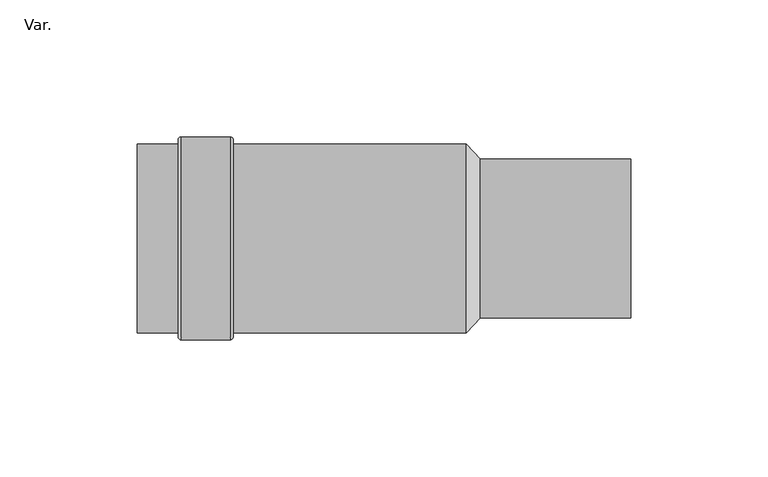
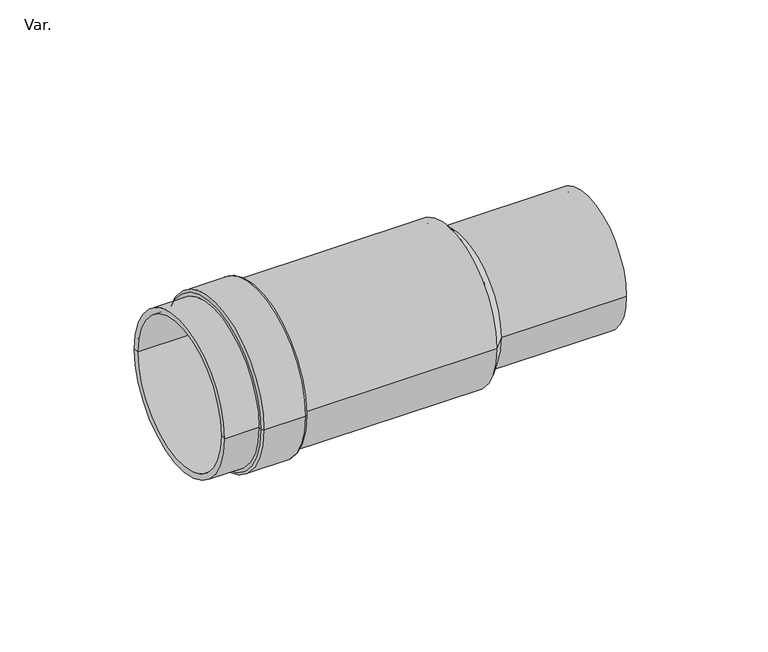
"""IFC4 building model written with IfcOpenShell, lengths in millimetres: pipe fitting geometry, PlastigamaWavin_Unionesdetubería_Biax y UZ_ZNoUsarAdaptadorEnsamblado : Var.."""

from ifc_helpers import new_model, si_unit, point, frame, origin, place, context, project, spatial, polyline, circle_curve, ellipse_curve, trimmed, source, transform, mapped, element, save
from ifc_brep_helpers import plane_surface, cylinder_surface, revolved_surface, advanced_brep


def var_d68ef85f(model_context):
    return source(origin(), model_context, "Body", "AdvancedBrep", [
        advanced_brep(
        [(-125.0, 34.5, 0.0), (-110.0, 34.5, 0.0), (-110.0, -34.5, 0.0), (-125.0, -34.5, 0.0), (-125.0, 32.0, 0.0), (-125.0, -32.0, 0.0), (-5.0, 32.0, 0.0), (-5.0, -32.0, 0.0), (-5.0, 26.5, 0.0), (-5.0, -26.5, 0.0), (55.0, 26.5, 0.0), (55.0, -26.5, 0.0), (55.0, 29.0, 0.0), (55.0, -29.0, 0.0), (0.0, 29.0, 0.0), (0.0, -29.0, 0.0), (-5.0, 34.5, 0.0), (-5.0, -34.5, 0.0), (-90.0, 34.5, 0.0), (-90.0, -34.5, 0.0), (-90.0, 36.0, 0.0), (-90.0, -36.0, 0.0), (-109.0, 37.0, 0.0), (-91.0, 37.0, 0.0), (-91.0, -37.0, 0.0), (-109.0, -37.0, 0.0), (-110.0, 36.0, 0.0), (-110.0, -36.0, 0.0)],
        [
            (0, 1),
            (1, 2, circle_curve(frame((-110.0, 0.0, 0.0), z_axis=(-1.0, 0.0, 0.0), x_axis=(0.0, -1.0, 0.0)), 34.5)),
            (2, 3),
            (3, 0, circle_curve(frame((-125.0, 0.0, 0.0), z_axis=(1.0, 0.0, 0.0), x_axis=(0.0, -1.0, 0.0)), 34.5)),
            (2, 1, circle_curve(frame((-110.0, 0.0, 0.0), z_axis=(-1.0, 0.0, 0.0), x_axis=(0.0, -1.0, 0.0)), 34.5)),
            (0, 3, circle_curve(frame((-125.0, 0.0, 0.0), z_axis=(1.0, 0.0, 0.0), x_axis=(0.0, -1.0, 0.0)), 34.5)),
            (4, 0),
            (3, 5),
            (5, 4, circle_curve(frame((-125.0, 0.0, 0.0), z_axis=(1.0, 0.0, 0.0), x_axis=(0.0, -1.0, 0.0)), 32.0)),
            (4, 5, circle_curve(frame((-125.0, 0.0, 0.0), z_axis=(1.0, 0.0, 0.0), x_axis=(0.0, -1.0, 0.0)), 32.0)),
            (6, 4),
            (5, 7),
            (7, 6, circle_curve(frame((-5.0, 0.0, 0.0), z_axis=(1.0, 0.0, 0.0), x_axis=(0.0, -1.0, 0.0)), 32.0)),
            (6, 7, circle_curve(frame((-5.0, 0.0, 0.0), z_axis=(1.0, 0.0, 0.0), x_axis=(0.0, -1.0, 0.0)), 32.0)),
            (8, 6),
            (7, 9),
            (9, 8, circle_curve(frame((-5.0, 0.0, 0.0), z_axis=(1.0, 0.0, 0.0), x_axis=(0.0, -1.0, 0.0)), 26.5)),
            (8, 9, circle_curve(frame((-5.0, 0.0, 0.0), z_axis=(1.0, 0.0, 0.0), x_axis=(0.0, -1.0, 0.0)), 26.5)),
            (10, 8),
            (9, 11),
            (11, 10, circle_curve(frame((55.0, 0.0, 0.0), z_axis=(1.0, 0.0, 0.0), x_axis=(0.0, -1.0, 0.0)), 26.5)),
            (10, 11, circle_curve(frame((55.0, 0.0, 0.0), z_axis=(1.0, 0.0, 0.0), x_axis=(0.0, -1.0, 0.0)), 26.5)),
            (12, 10),
            (11, 13),
            (13, 12, circle_curve(frame((55.0, 0.0, 0.0), z_axis=(1.0, 0.0, 0.0), x_axis=(0.0, -1.0, 0.0)), 29.0)),
            (12, 13, circle_curve(frame((55.0, 0.0, 0.0), z_axis=(1.0, 0.0, 0.0), x_axis=(0.0, -1.0, 0.0)), 29.0)),
            (14, 12),
            (13, 15),
            (15, 14, circle_curve(frame((0.0, 0.0, 0.0), z_axis=(1.0, 0.0, 0.0), x_axis=(0.0, -1.0, 0.0)), 29.0)),
            (14, 15, circle_curve(frame((0.0, 0.0, 0.0), z_axis=(1.0, 0.0, 0.0), x_axis=(0.0, -1.0, 0.0)), 29.0)),
            (16, 14),
            (15, 17),
            (17, 16, circle_curve(frame((-5.0, 0.0, 0.0), z_axis=(1.0, 0.0, 0.0), x_axis=(0.0, -1.0, 0.0)), 34.5)),
            (16, 17, circle_curve(frame((-5.0, 0.0, 0.0), z_axis=(1.0, 0.0, 0.0), x_axis=(0.0, -1.0, 0.0)), 34.5)),
            (18, 16),
            (17, 19),
            (19, 18, circle_curve(frame((-90.0, 0.0, 0.0), z_axis=(1.0, 0.0, 0.0), x_axis=(0.0, -1.0, 0.0)), 34.5)),
            (18, 19, circle_curve(frame((-90.0, 0.0, 0.0), z_axis=(1.0, 0.0, 0.0), x_axis=(0.0, -1.0, 0.0)), 34.5)),
            (20, 18),
            (19, 21),
            (21, 20, circle_curve(frame((-90.0, 0.0, 0.0), z_axis=(1.0, 0.0, 0.0), x_axis=(0.0, -1.0, 0.0)), 36.0)),
            (20, 21, circle_curve(frame((-90.0, 0.0, 0.0), z_axis=(1.0, 0.0, 0.0), x_axis=(0.0, -1.0, 0.0)), 36.0)),
            (22, 23),
            (23, 24, circle_curve(frame((-91.0, 0.0, 0.0), z_axis=(-1.0, 0.0, 0.0), x_axis=(0.0, -1.0, 0.0)), 37.0)),
            (24, 25),
            (25, 22, circle_curve(frame((-109.0, 0.0, 0.0), z_axis=(1.0, 0.0, 0.0), x_axis=(0.0, -1.0, 0.0)), 37.0)),
            (24, 23, circle_curve(frame((-91.0, 0.0, 0.0), z_axis=(-1.0, 0.0, 0.0), x_axis=(0.0, -1.0, 0.0)), 37.0)),
            (22, 25, circle_curve(frame((-109.0, 0.0, 0.0), z_axis=(1.0, 0.0, 0.0), x_axis=(0.0, -1.0, 0.0)), 37.0)),
            (1, 26),
            (26, 27, circle_curve(frame((-110.0, 0.0, 0.0), z_axis=(-1.0, 0.0, 0.0), x_axis=(0.0, -1.0, 0.0)), 36.0)),
            (27, 2),
            (27, 26, circle_curve(frame((-110.0, 0.0, 0.0), z_axis=(-1.0, 0.0, 0.0), x_axis=(0.0, -1.0, 0.0)), 36.0)),
            (23, 20, circle_curve(frame((-91.0, 36.0, 0.0), z_axis=(0.0, 0.0, -1.0), x_axis=(1.0, 0.0, 0.0)), 1.0)),
            (21, 24, circle_curve(frame((-91.0, -36.0, 0.0), z_axis=(0.0, 0.0, -1.0), x_axis=(1.0, 0.0, 0.0)), 1.0)),
            (26, 22, circle_curve(frame((-109.0, 36.0, 0.0), z_axis=(0.0, 0.0, -1.0), x_axis=(1.0, 0.0, 0.0)), 1.0)),
            (25, 27, circle_curve(frame((-109.0, -36.0, 0.0), z_axis=(0.0, 0.0, -1.0), x_axis=(1.0, 0.0, 0.0)), 1.0)),
        ],
        [
            cylinder_surface(frame((-125.0, 0.0, 0.0), z_axis=(-1.0, 0.0, 0.0), x_axis=(0.0, -1.0, 0.0)), 34.5),
            plane_surface(frame((-125.0, 0.0, 0.0), z_axis=(-1.0, 0.0, 0.0), x_axis=(0.0, -1.0, 0.0))),
            revolved_surface(polyline([(-125.0, -32.0, 0.0), (-5.0, -32.0, 0.0)]), (-125.0, 0.0, 0.0), (-1.0, 0.0, 0.0)),
            plane_surface(frame((-5.0, 0.0, 0.0), z_axis=(-1.0, 0.0, 0.0), x_axis=(0.0, -1.0, 0.0))),
            revolved_surface(polyline([(-5.0, -26.5, 0.0), (55.0, -26.5, 0.0)]), (-125.0, 0.0, 0.0), (-1.0, 0.0, 0.0)),
            plane_surface(frame((55.0, 0.0, 0.0), z_axis=(1.0, 0.0, 0.0), x_axis=(0.0, -1.0, 0.0))),
            cylinder_surface(frame((-125.0, 0.0, 0.0), z_axis=(-1.0, 0.0, 0.0), x_axis=(0.0, -1.0, 0.0)), 29.0),
            revolved_surface(polyline([(0.0, -29.0, 0.0), (-5.0, -34.5, 0.0)]), (-125.0, 0.0, 0.0), (-1.0, 0.0, 0.0)),
            plane_surface(frame((-90.0, 0.0, 0.0), z_axis=(1.0, 0.0, 0.0), x_axis=(0.0, -1.0, 0.0))),
            cylinder_surface(frame((-125.0, 0.0, 0.0), z_axis=(-1.0, 0.0, 0.0), x_axis=(0.0, -1.0, 0.0)), 37.0),
            plane_surface(frame((-110.0, 0.0, 0.0), z_axis=(-1.0, 0.0, 0.0), x_axis=(0.0, -1.0, 0.0))),
            revolved_surface(trimmed(ellipse_curve(frame((-91.0, -36.0, 0.0), z_axis=(0.0, 0.0, -1.0), x_axis=(1.0, 0.0, 0.0)), 1.0, 1.0), [point((-90.0, -36.0, 0.0))], [point((-91.0, -37.0, 0.0))], True, "CARTESIAN"), (-125.0, 0.0, 0.0), (-1.0, 0.0, 0.0)),
            revolved_surface(trimmed(ellipse_curve(frame((-109.0, -36.0, 0.0), z_axis=(0.0, 0.0, -1.0), x_axis=(1.0, 0.0, 0.0)), 1.0, 1.0), [point((-109.0, -37.0, 0.0))], [point((-110.0, -36.0, 0.0))], True, "CARTESIAN"), (-125.0, 0.0, 0.0), (-1.0, 0.0, 0.0)),
        ],
        [
            (0, [[1, 2, 3, 4]]),
            (0, [[-3, 5, -1, 6]]),
            (1, [[7, -4, 8, 9]]),
            (1, [[-8, -6, -7, 10]]),
            (2, [[11, -9, 12, 13]]),
            (2, [[-12, -10, -11, 14]]),
            (3, [[15, -13, 16, 17]]),
            (3, [[-16, -14, -15, 18]]),
            (4, [[19, -17, 20, 21]]),
            (4, [[-20, -18, -19, 22]]),
            (5, [[23, -21, 24, 25]]),
            (5, [[-24, -22, -23, 26]]),
            (6, [[27, -25, 28, 29]]),
            (6, [[-28, -26, -27, 30]]),
            (7, [[31, -29, 32, 33]]),
            (7, [[-32, -30, -31, 34]]),
            (0, [[35, -33, 36, 37]]),
            (0, [[-36, -34, -35, 38]]),
            (8, [[39, -37, 40, 41]]),
            (8, [[-40, -38, -39, 42]]),
            (9, [[43, 44, 45, 46]]),
            (9, [[-45, 47, -43, 48]]),
            (10, [[49, 50, 51, -2]]),
            (10, [[-51, 52, -49, -5]]),
            (11, [[53, -41, 54, -44]]),
            (11, [[-54, -42, -53, -47]]),
            (12, [[55, -46, 56, -50]]),
            (12, [[-56, -48, -55, -52]]),
        ],
    ),
    ])


if __name__ == "__main__":
    model = new_model("IFC4")
    model_context = context("Model", 3, world=origin())
    ifc_project = project(units=[si_unit("LENGTHUNIT", "METRE", prefix="MILLI")], contexts=[model_context])
    site = spatial("IfcSite", under=ifc_project)
    building = spatial("IfcBuilding", under=site)
    placement = place(None, origin())
    var_shape = var_d68ef85f(model_context)
    element("IfcPipeFitting", 1, ObjectType="PlastigamaWavin_Unionesdetubería_Biax y UZ_ZNoUsarAdaptadorEnsamblado : Var.", at=placement, inside=building, context=model_context, shape_type="MappedRepresentation", body=[
        mapped(var_shape, transform((0.0, 0.0, 0.0), x_axis=(1.0, 0.0, 0.0), y_axis=(0.0, 1.0, 0.0), z_axis=(0.0, 0.0, 1.0))),
    ])
    save(model, "model.ifc")
